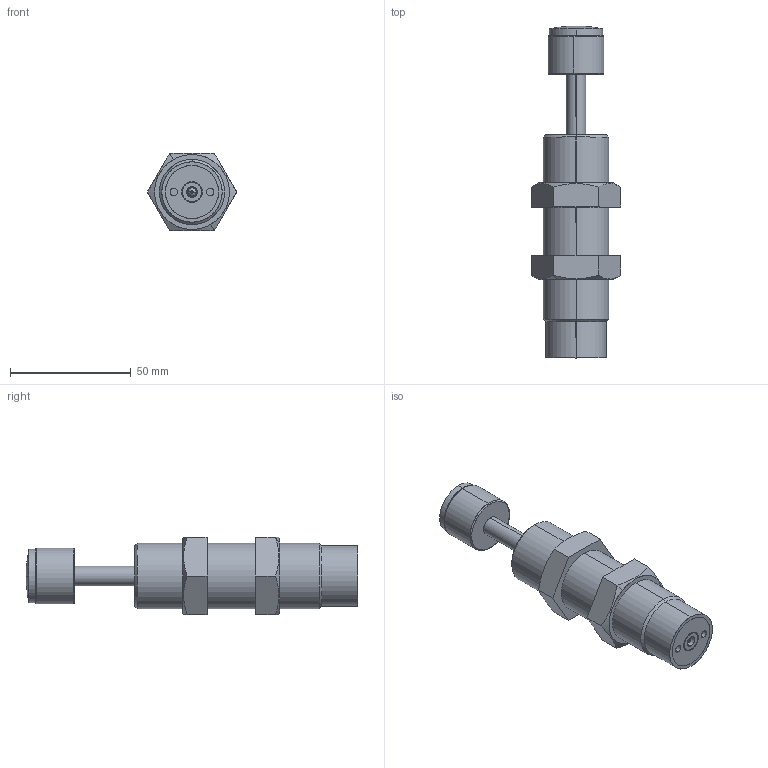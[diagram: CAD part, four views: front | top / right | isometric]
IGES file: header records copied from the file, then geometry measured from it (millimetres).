
Start section: SolidWorks IGES file using analytic representation for surfaces
Bounding box: 36.95 x 137.5 x 32 mm (x, y, z)
Surface area: 16894.4 mm2 (no closed solid volume)
Topology: 0 solids, 0 shells, 97 faces, 1587 edges, 1586 vertices
Faces by surface type: revolution 58, bspline 39
